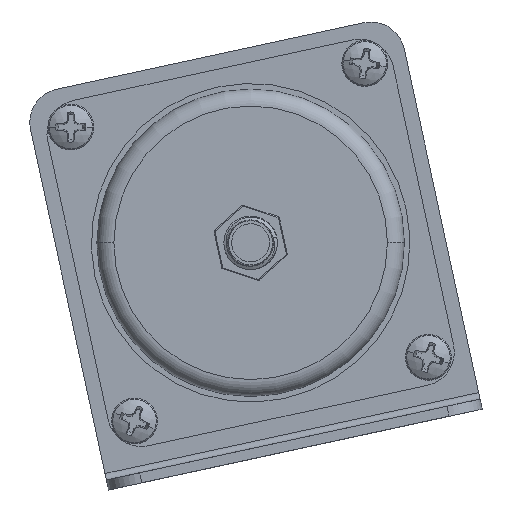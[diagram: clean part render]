
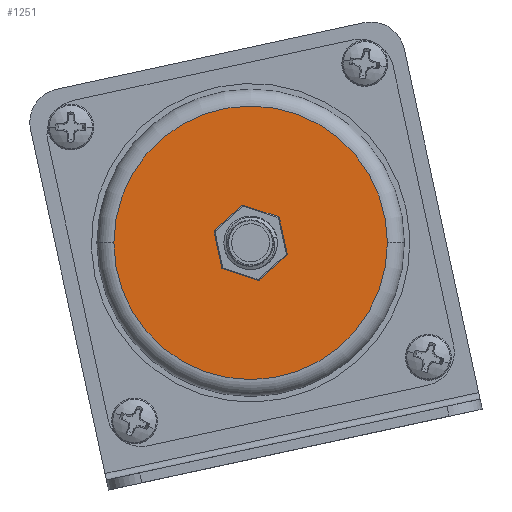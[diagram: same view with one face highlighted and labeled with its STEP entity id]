
A CAD part, left-side view. The second image highlights one B-rep face of the part: STEP entity #1251.
In plain terms, the highlighted planar face has unit normal (-1, 0, 0).
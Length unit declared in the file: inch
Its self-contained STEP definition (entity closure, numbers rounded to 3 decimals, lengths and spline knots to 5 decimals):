
#432 = VERTEX_POINT ( 'NONE', #15431 ) ;
#894 = DIRECTION ( 'NONE',  ( -1., 0., 0. ) ) ;
#940 = CIRCLE ( 'NONE', #15304, 0.805 ) ;
#1251 = ADVANCED_FACE ( 'NONE', ( #17352, #7644 ), #12071, .T. ) ;
#1625 = DIRECTION ( 'NONE',  ( 0., -1., 0. ) ) ;
#2430 = ORIENTED_EDGE ( 'NONE', *, *, #8803, .T. ) ;
#2561 = ORIENTED_EDGE ( 'NONE', *, *, #15357, .F. ) ;
#2832 = DIRECTION ( 'NONE',  ( -1., 0., 0. ) ) ;
#3002 = EDGE_CURVE ( 'NONE', #432, #13523, #8098, .T. ) ;
#3359 = CARTESIAN_POINT ( 'NONE',  ( 0., -0.805, 0. ) ) ;
#3541 = DIRECTION ( 'NONE',  ( 0., -1., 0. ) ) ;
#4096 = AXIS2_PLACEMENT_3D ( 'NONE', #17508, #13698, #12251 ) ;
#4143 = CARTESIAN_POINT ( 'NONE',  ( 0., 0., 0. ) ) ;
#4548 = VERTEX_POINT ( 'NONE', #3359 ) ;
#7099 = VERTEX_POINT ( 'NONE', #11003 ) ;
#7644 = FACE_BOUND ( 'NONE', #16760, .T. ) ;
#7864 = CIRCLE ( 'NONE', #9031, 0.16732 ) ;
#8098 = CIRCLE ( 'NONE', #4096, 0.16732 ) ;
#8803 = EDGE_CURVE ( 'NONE', #7099, #4548, #940, .T. ) ;
#9031 = AXIS2_PLACEMENT_3D ( 'NONE', #14842, #894, #17411 ) ;
#9492 = CARTESIAN_POINT ( 'NONE',  ( 0., 0., 0. ) ) ;
#9511 = EDGE_LOOP ( 'NONE', ( #15580, #2430 ) ) ;
#10724 = CARTESIAN_POINT ( 'NONE',  ( 0., 0., 0. ) ) ;
#11003 = CARTESIAN_POINT ( 'NONE',  ( 0., 0.805, 0. ) ) ;
#11053 = CIRCLE ( 'NONE', #17358, 0.805 ) ;
#11261 = AXIS2_PLACEMENT_3D ( 'NONE', #10724, #11982, #3541 ) ;
#11982 = DIRECTION ( 'NONE',  ( -1., 0., 0. ) ) ;
#12071 = PLANE ( 'NONE',  #11261 ) ;
#12251 = DIRECTION ( 'NONE',  ( 0., 0., 1. ) ) ;
#13523 = VERTEX_POINT ( 'NONE', #14953 ) ;
#13698 = DIRECTION ( 'NONE',  ( -1., 0., 0. ) ) ;
#13942 = EDGE_CURVE ( 'NONE', #4548, #7099, #11053, .T. ) ;
#14694 = ORIENTED_EDGE ( 'NONE', *, *, #3002, .F. ) ;
#14842 = CARTESIAN_POINT ( 'NONE',  ( 0., 0., 0. ) ) ;
#14953 = CARTESIAN_POINT ( 'NONE',  ( 0., 0., 0.16732 ) ) ;
#14986 = DIRECTION ( 'NONE',  ( 0., -1., 0. ) ) ;
#15304 = AXIS2_PLACEMENT_3D ( 'NONE', #9492, #2832, #14986 ) ;
#15357 = EDGE_CURVE ( 'NONE', #13523, #432, #7864, .T. ) ;
#15431 = CARTESIAN_POINT ( 'NONE',  ( 0., 0., -0.16732 ) ) ;
#15580 = ORIENTED_EDGE ( 'NONE', *, *, #13942, .T. ) ;
#16553 = DIRECTION ( 'NONE',  ( -1., 0., 0. ) ) ;
#16760 = EDGE_LOOP ( 'NONE', ( #2561, #14694 ) ) ;
#17352 = FACE_OUTER_BOUND ( 'NONE', #9511, .T. ) ;
#17358 = AXIS2_PLACEMENT_3D ( 'NONE', #4143, #16553, #1625 ) ;
#17411 = DIRECTION ( 'NONE',  ( 0., 0., 1. ) ) ;
#17508 = CARTESIAN_POINT ( 'NONE',  ( 0., 0., 0. ) ) ;
